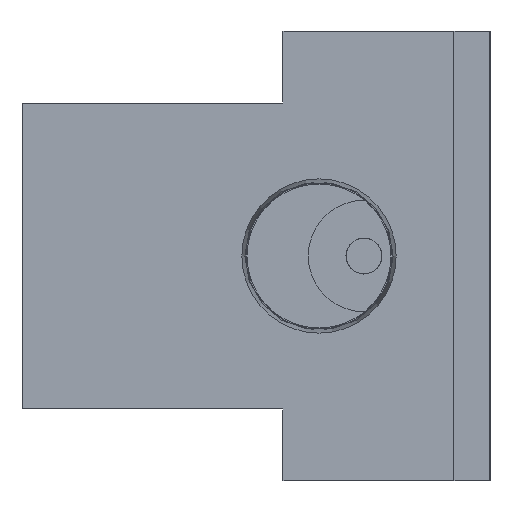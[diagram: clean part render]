
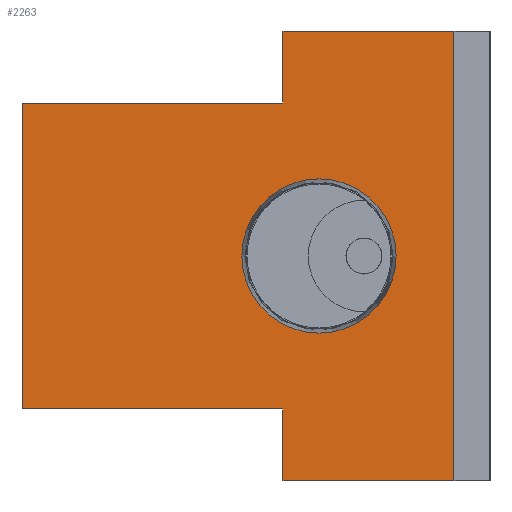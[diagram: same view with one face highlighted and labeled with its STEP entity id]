
A CAD part, left-side view. The second image highlights one B-rep face of the part: STEP entity #2263.
In plain terms, the highlighted planar face has unit normal (-1, 0, 0).
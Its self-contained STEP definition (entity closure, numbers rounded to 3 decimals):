
#2263 = ADVANCED_FACE( '', ( #5242, #5243 ), #5244, .F. );
#5242 = FACE_BOUND( '', #9113, .T. );
#5243 = FACE_OUTER_BOUND( '', #9114, .T. );
#5244 = PLANE( '', #9115 );
#9113 = EDGE_LOOP( '', ( #14877 ) );
#9114 = EDGE_LOOP( '', ( #14878, #14879, #14880, #14881, #14882, #14883, #14884, #14885 ) );
#9115 = AXIS2_PLACEMENT_3D( '', #14886, #14887, #14888 );
#14877 = ORIENTED_EDGE( '', *, *, #23547, .T. );
#14878 = ORIENTED_EDGE( '', *, *, #23548, .F. );
#14879 = ORIENTED_EDGE( '', *, *, #23549, .F. );
#14880 = ORIENTED_EDGE( '', *, *, #23550, .F. );
#14881 = ORIENTED_EDGE( '', *, *, #22819, .F. );
#14882 = ORIENTED_EDGE( '', *, *, #23551, .F. );
#14883 = ORIENTED_EDGE( '', *, *, #23552, .F. );
#14884 = ORIENTED_EDGE( '', *, *, #22965, .F. );
#14885 = ORIENTED_EDGE( '', *, *, #22345, .F. );
#14886 = CARTESIAN_POINT( '', ( 0., 0., 0. ) );
#14887 = DIRECTION( '', ( 1., 0., 0. ) );
#14888 = DIRECTION( '', ( 0., 0., -1. ) );
#22345 = EDGE_CURVE( '', #26679, #26681, #26682, .T. );
#22819 = EDGE_CURVE( '', #27492, #27494, #27495, .T. );
#22965 = EDGE_CURVE( '', #26681, #27735, #27736, .T. );
#23547 = EDGE_CURVE( '', #28667, #28667, #28668, .T. );
#23548 = EDGE_CURVE( '', #28669, #26679, #28670, .T. );
#23549 = EDGE_CURVE( '', #28671, #28669, #28672, .T. );
#23550 = EDGE_CURVE( '', #27494, #28671, #28673, .T. );
#23551 = EDGE_CURVE( '', #28674, #27492, #28675, .T. );
#23552 = EDGE_CURVE( '', #27735, #28674, #28676, .T. );
#26679 = VERTEX_POINT( '', #32850 );
#26681 = VERTEX_POINT( '', #32853 );
#26682 = LINE( '', #32854, #32855 );
#27492 = VERTEX_POINT( '', #34007 );
#27494 = VERTEX_POINT( '', #34010 );
#27495 = LINE( '', #34011, #34012 );
#27735 = VERTEX_POINT( '', #34343 );
#27736 = LINE( '', #34344, #34345 );
#28667 = VERTEX_POINT( '', #35642 );
#28668 = CIRCLE( '', #35643, 4.283 );
#28669 = VERTEX_POINT( '', #35644 );
#28670 = LINE( '', #35645, #35646 );
#28671 = VERTEX_POINT( '', #35647 );
#28672 = LINE( '', #35648, #35649 );
#28673 = LINE( '', #35650, #35651 );
#28674 = VERTEX_POINT( '', #35652 );
#28675 = LINE( '', #35653, #35654 );
#28676 = LINE( '', #35655, #35656 );
#32850 = CARTESIAN_POINT( '', ( 0., 9.5, 12.5 ) );
#32853 = CARTESIAN_POINT( '', ( 0., 0., 12.5 ) );
#32854 = CARTESIAN_POINT( '', ( 0., 9.5, 12.5 ) );
#32855 = VECTOR( '', #40057, 1000. );
#34007 = CARTESIAN_POINT( '', ( 0., 9.5, -8.5 ) );
#34010 = CARTESIAN_POINT( '', ( 0., 24., -8.5 ) );
#34011 = CARTESIAN_POINT( '', ( 0., 9.5, -8.5 ) );
#34012 = VECTOR( '', #40521, 1000. );
#34343 = CARTESIAN_POINT( '', ( 0., 0., -12.5 ) );
#34344 = CARTESIAN_POINT( '', ( 0., 0., 12.5 ) );
#34345 = VECTOR( '', #40667, 1000. );
#35642 = CARTESIAN_POINT( '', ( 0., 11.783, 0. ) );
#35643 = AXIS2_PLACEMENT_3D( '', #41292, #41293, #41294 );
#35644 = CARTESIAN_POINT( '', ( 0., 9.5, 8.5 ) );
#35645 = CARTESIAN_POINT( '', ( 0., 9.5, 8.5 ) );
#35646 = VECTOR( '', #41295, 1000. );
#35647 = CARTESIAN_POINT( '', ( 0., 24., 8.5 ) );
#35648 = CARTESIAN_POINT( '', ( 0., 24., 8.5 ) );
#35649 = VECTOR( '', #41296, 1000. );
#35650 = CARTESIAN_POINT( '', ( 0., 24., -8.5 ) );
#35651 = VECTOR( '', #41297, 1000. );
#35652 = CARTESIAN_POINT( '', ( 0., 9.5, -12.5 ) );
#35653 = CARTESIAN_POINT( '', ( 0., 9.5, -12.5 ) );
#35654 = VECTOR( '', #41298, 1000. );
#35655 = CARTESIAN_POINT( '', ( 0., 0., -12.5 ) );
#35656 = VECTOR( '', #41299, 1000. );
#40057 = DIRECTION( '', ( 0., -1., 0. ) );
#40521 = DIRECTION( '', ( 0., 1., 0. ) );
#40667 = DIRECTION( '', ( 0., 0., -1. ) );
#41292 = CARTESIAN_POINT( '', ( 0., 7.5, 0. ) );
#41293 = DIRECTION( '', ( 1., 0., 0. ) );
#41294 = DIRECTION( '', ( 0., 1., 0. ) );
#41295 = DIRECTION( '', ( 0., 0., 1. ) );
#41296 = DIRECTION( '', ( 0., -1., 0. ) );
#41297 = DIRECTION( '', ( 0., 0., 1. ) );
#41298 = DIRECTION( '', ( 0., 0., 1. ) );
#41299 = DIRECTION( '', ( 0., 1., 0. ) );
